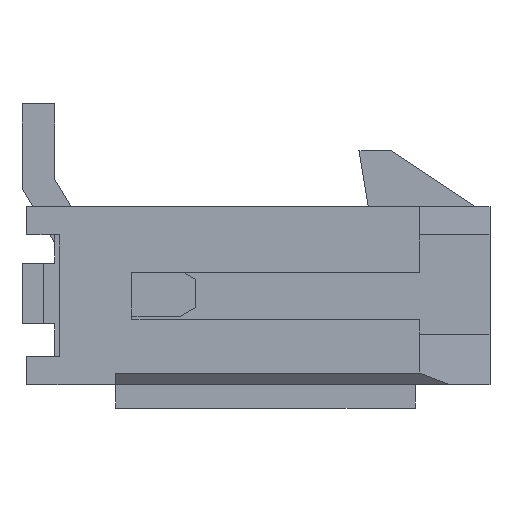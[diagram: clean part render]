
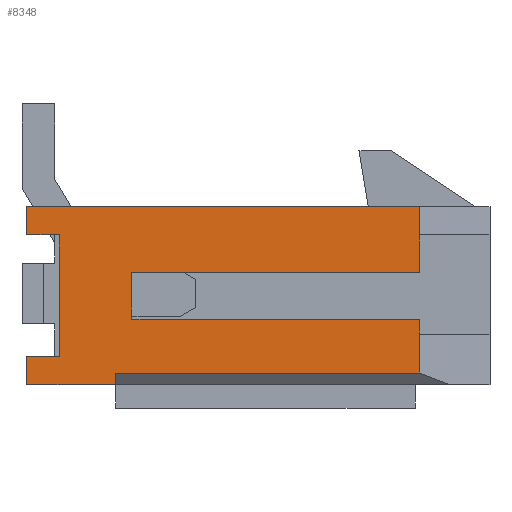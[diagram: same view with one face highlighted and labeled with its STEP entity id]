
A CAD part, front view. The second image highlights one B-rep face of the part: STEP entity #8348.
In plain terms, the highlighted planar face has unit normal (0, -1, 0).
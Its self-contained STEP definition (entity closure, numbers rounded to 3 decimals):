
#101=FACE_OUTER_BOUND('',#538,.T.);
#538=EDGE_LOOP('',(#5470,#5471,#5472,#5473,#5474,#5475,#5476,#5477,#5478,
#5479,#5480,#5481,#5482,#5483,#5484,#5485));
#1107=LINE('',#11595,#2281);
#1110=LINE('',#11601,#2284);
#1111=LINE('',#11603,#2285);
#1112=LINE('',#11605,#2286);
#1113=LINE('',#11607,#2287);
#1114=LINE('',#11609,#2288);
#1115=LINE('',#11611,#2289);
#1116=LINE('',#11613,#2290);
#1117=LINE('',#11615,#2291);
#1118=LINE('',#11617,#2292);
#1119=LINE('',#11619,#2293);
#1120=LINE('',#11620,#2294);
#1121=LINE('',#11622,#2295);
#1122=LINE('',#11624,#2296);
#1123=LINE('',#11626,#2297);
#1124=LINE('',#11627,#2298);
#2281=VECTOR('',#9441,1.);
#2284=VECTOR('',#9446,1.);
#2285=VECTOR('',#9447,1.);
#2286=VECTOR('',#9448,1.);
#2287=VECTOR('',#9449,1.);
#2288=VECTOR('',#9450,1.);
#2289=VECTOR('',#9451,1.);
#2290=VECTOR('',#9452,1.);
#2291=VECTOR('',#9453,1.);
#2292=VECTOR('',#9454,1.);
#2293=VECTOR('',#9455,1.);
#2294=VECTOR('',#9456,1.);
#2295=VECTOR('',#9457,1.);
#2296=VECTOR('',#9458,1.);
#2297=VECTOR('',#9459,1.);
#2298=VECTOR('',#9460,1.);
#3434=VERTEX_POINT('',#11593);
#3435=VERTEX_POINT('',#11594);
#3436=VERTEX_POINT('',#11599);
#3437=VERTEX_POINT('',#11600);
#3438=VERTEX_POINT('',#11602);
#3439=VERTEX_POINT('',#11604);
#3440=VERTEX_POINT('',#11606);
#3441=VERTEX_POINT('',#11608);
#3442=VERTEX_POINT('',#11610);
#3443=VERTEX_POINT('',#11612);
#3444=VERTEX_POINT('',#11614);
#3445=VERTEX_POINT('',#11616);
#3446=VERTEX_POINT('',#11618);
#3447=VERTEX_POINT('',#11621);
#3448=VERTEX_POINT('',#11623);
#3449=VERTEX_POINT('',#11625);
#4243=EDGE_CURVE('',#3434,#3435,#1107,.T.);
#4246=EDGE_CURVE('',#3436,#3437,#1110,.T.);
#4247=EDGE_CURVE('',#3437,#3438,#1111,.T.);
#4248=EDGE_CURVE('',#3439,#3438,#1112,.T.);
#4249=EDGE_CURVE('',#3440,#3439,#1113,.T.);
#4250=EDGE_CURVE('',#3441,#3440,#1114,.T.);
#4251=EDGE_CURVE('',#3442,#3441,#1115,.T.);
#4252=EDGE_CURVE('',#3443,#3442,#1116,.T.);
#4253=EDGE_CURVE('',#3443,#3444,#1117,.T.);
#4254=EDGE_CURVE('',#3444,#3445,#1118,.T.);
#4255=EDGE_CURVE('',#3445,#3446,#1119,.T.);
#4256=EDGE_CURVE('',#3434,#3446,#1120,.T.);
#4257=EDGE_CURVE('',#3447,#3435,#1121,.T.);
#4258=EDGE_CURVE('',#3447,#3448,#1122,.T.);
#4259=EDGE_CURVE('',#3449,#3448,#1123,.T.);
#4260=EDGE_CURVE('',#3436,#3449,#1124,.T.);
#5470=ORIENTED_EDGE('',*,*,#4246,.T.);
#5471=ORIENTED_EDGE('',*,*,#4247,.T.);
#5472=ORIENTED_EDGE('',*,*,#4248,.F.);
#5473=ORIENTED_EDGE('',*,*,#4249,.F.);
#5474=ORIENTED_EDGE('',*,*,#4250,.F.);
#5475=ORIENTED_EDGE('',*,*,#4251,.F.);
#5476=ORIENTED_EDGE('',*,*,#4252,.F.);
#5477=ORIENTED_EDGE('',*,*,#4253,.T.);
#5478=ORIENTED_EDGE('',*,*,#4254,.T.);
#5479=ORIENTED_EDGE('',*,*,#4255,.T.);
#5480=ORIENTED_EDGE('',*,*,#4256,.F.);
#5481=ORIENTED_EDGE('',*,*,#4243,.T.);
#5482=ORIENTED_EDGE('',*,*,#4257,.F.);
#5483=ORIENTED_EDGE('',*,*,#4258,.T.);
#5484=ORIENTED_EDGE('',*,*,#4259,.F.);
#5485=ORIENTED_EDGE('',*,*,#4260,.F.);
#7694=PLANE('',#8809);
#8348=ADVANCED_FACE('',(#101),#7694,.F.);
#8809=AXIS2_PLACEMENT_3D('',#11598,#9444,#9445);
#9441=DIRECTION('',(0.,0.,-1.));
#9444=DIRECTION('center_axis',(0.,1.,0.));
#9445=DIRECTION('ref_axis',(0.,0.,1.));
#9446=DIRECTION('',(1.,0.,0.));
#9447=DIRECTION('',(0.,0.,1.));
#9448=DIRECTION('',(0.,0.,-1.));
#9449=DIRECTION('',(1.,0.,0.));
#9450=DIRECTION('',(0.,0.,-1.));
#9451=DIRECTION('',(-1.,0.,0.));
#9452=DIRECTION('',(0.,0.,-1.));
#9453=DIRECTION('',(0.,0.,1.));
#9454=DIRECTION('',(-1.,0.,0.));
#9455=DIRECTION('',(0.,0.,-1.));
#9456=DIRECTION('',(-1.,0.,0.));
#9457=DIRECTION('',(1.,0.,0.));
#9458=DIRECTION('',(0.,0.,-1.));
#9459=DIRECTION('',(-1.,0.,0.));
#9460=DIRECTION('',(0.,0.,-1.));
#11593=CARTESIAN_POINT('',(50.7,-88.475,37.4));
#11594=CARTESIAN_POINT('',(50.7,-88.475,34.8));
#11595=CARTESIAN_POINT('',(50.7,-88.475,38.));
#11598=CARTESIAN_POINT('Origin',(59.9,-88.475,38.));
#11599=CARTESIAN_POINT('',(51.9,-88.475,34.45));
#11600=CARTESIAN_POINT('',(58.4,-88.475,34.45));
#11601=CARTESIAN_POINT('',(51.9,-88.475,34.45));
#11602=CARTESIAN_POINT('',(58.4,-88.475,35.28));
#11603=CARTESIAN_POINT('',(58.4,-88.475,32.79));
#11604=CARTESIAN_POINT('',(58.4,-88.475,35.6));
#11605=CARTESIAN_POINT('',(58.4,-88.475,35.6));
#11606=CARTESIAN_POINT('',(52.25,-88.475,35.6));
#11607=CARTESIAN_POINT('',(59.9,-88.475,35.6));
#11608=CARTESIAN_POINT('',(52.25,-88.475,36.6));
#11609=CARTESIAN_POINT('',(52.25,-88.475,38.));
#11610=CARTESIAN_POINT('',(58.4,-88.475,36.6));
#11611=CARTESIAN_POINT('',(59.9,-88.475,36.6));
#11612=CARTESIAN_POINT('',(58.4,-88.475,37.4));
#11613=CARTESIAN_POINT('',(58.4,-88.475,37.52));
#11614=CARTESIAN_POINT('',(58.4,-88.475,38.));
#11615=CARTESIAN_POINT('',(58.4,-88.475,38.));
#11616=CARTESIAN_POINT('',(50.,-88.475,38.));
#11617=CARTESIAN_POINT('',(59.9,-88.475,38.));
#11618=CARTESIAN_POINT('',(50.,-88.475,37.4));
#11619=CARTESIAN_POINT('',(50.,-88.475,38.));
#11620=CARTESIAN_POINT('',(59.9,-88.475,37.4));
#11621=CARTESIAN_POINT('',(50.,-88.475,34.8));
#11622=CARTESIAN_POINT('',(43.77,-88.475,34.8));
#11623=CARTESIAN_POINT('',(50.,-88.475,34.2));
#11624=CARTESIAN_POINT('',(50.,-88.475,34.2));
#11625=CARTESIAN_POINT('',(51.9,-88.475,34.2));
#11626=CARTESIAN_POINT('',(59.9,-88.475,34.2));
#11627=CARTESIAN_POINT('',(51.9,-88.475,31.45));
